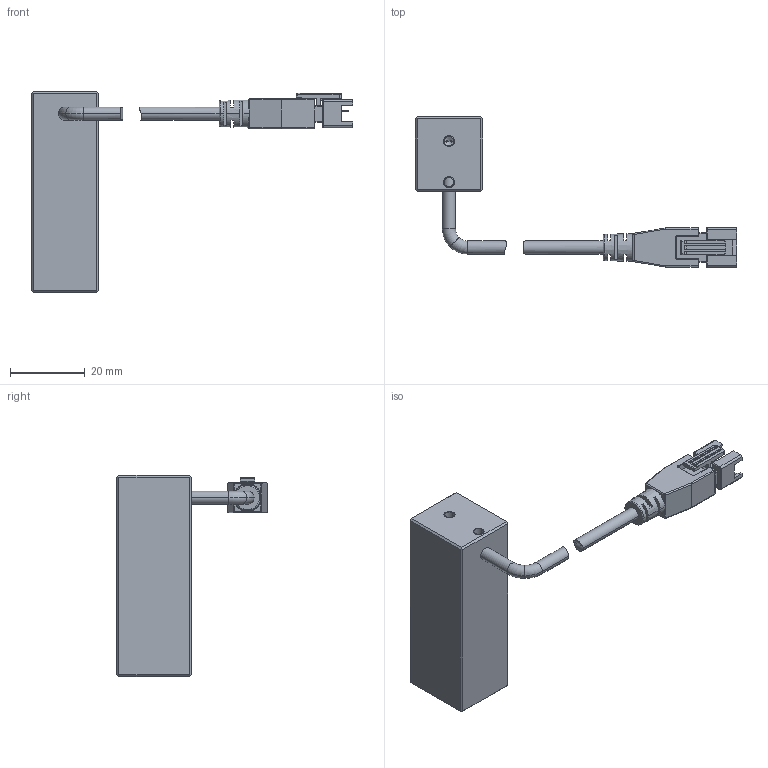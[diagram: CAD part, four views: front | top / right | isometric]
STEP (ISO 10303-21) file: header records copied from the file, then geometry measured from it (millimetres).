
FILE_DESCRIPTION((''),'2;1');
FILE_NAME('JIANYIMOXING_ASM','2014-06-10T',('admin'),(''),'PRO/ENGINEER BY PARAMETRIC TECHNOLOGY CORPORATION, 2011220','PRO/ENGINEER BY PARAMETRIC TECHNOLOGY CORPORATION, 2011220','');
FILE_SCHEMA(('CONFIG_CONTROL_DESIGN'));
Length unit declared in the file: millimetre
Products named in the file (5): JIANYI; LINE_TOU; BODY_12; ASSY_ASM; JIANYIMOXING_ASM
Assembly tree (4 placements, depth 3):
  JIANYIMOXING_ASM
    JIANYI
    ASSY_ASM
      LINE_TOU
      BODY_12
Bounding box: 86.1 x 40.25 x 54 mm (x, y, z)
Volume: 21397.6 mm3; surface area: 7615.9 mm2
Topology: 3 solids, 7 shells, 277 faces, 710 edges, 447 vertices
Faces by surface type: plane 154, cylinder 85, torus 12, cone 10, bspline 8, sphere 8
Entity records: 8726 total; most frequent: CARTESIAN_POINT 1877, DIRECTION 1420, ORIENTED_EDGE 1386, EDGE_CURVE 702, AXIS2_PLACEMENT_3D 484, VECTOR 452, LINE 452, VERTEX_POINT 447
